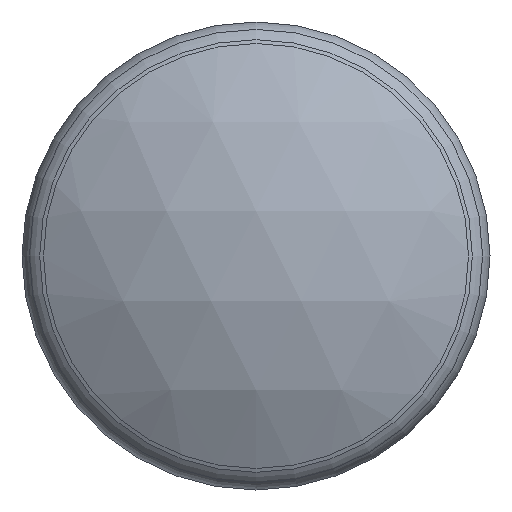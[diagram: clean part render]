
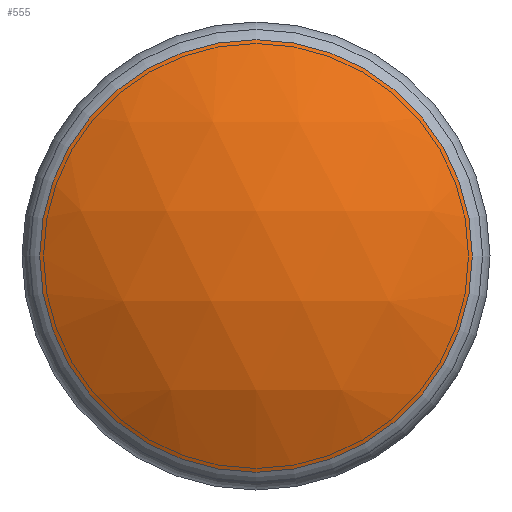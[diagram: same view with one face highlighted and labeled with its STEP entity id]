
A CAD part, front view. The second image highlights one B-rep face of the part: STEP entity #555.
In plain terms, the highlighted spherical face has radius 200 mm.
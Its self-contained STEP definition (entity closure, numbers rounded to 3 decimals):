
#34=SPHERICAL_SURFACE('',#744,200.);
#162=FACE_OUTER_BOUND('',#210,.T.);
#210=EDGE_LOOP('',(#485));
#257=CIRCLE('',#745,101.833);
#303=VERTEX_POINT('',#1099);
#365=EDGE_CURVE('',#303,#303,#257,.T.);
#485=ORIENTED_EDGE('',*,*,#365,.F.);
#555=ADVANCED_FACE('',(#162),#34,.T.);
#744=AXIS2_PLACEMENT_3D('',#1098,#927,#928);
#745=AXIS2_PLACEMENT_3D('',#1100,#929,#930);
#927=DIRECTION('center_axis',(0.,0.,1.));
#928=DIRECTION('ref_axis',(1.,0.,0.));
#929=DIRECTION('center_axis',(0.,1.,0.));
#930=DIRECTION('ref_axis',(1.,0.,0.));
#1098=CARTESIAN_POINT('Origin',(0.,200.,0.));
#1099=CARTESIAN_POINT('',(0.,27.866,-101.833));
#1100=CARTESIAN_POINT('Origin',(0.,27.866,0.));
